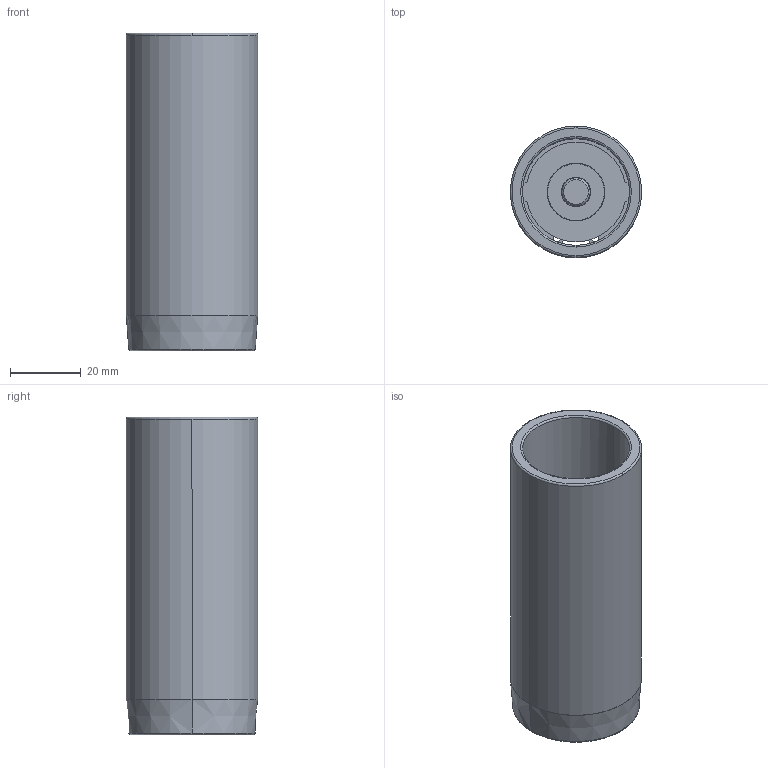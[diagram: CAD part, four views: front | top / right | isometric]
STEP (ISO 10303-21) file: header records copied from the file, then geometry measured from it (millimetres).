
FILE_DESCRIPTION((''),'2;1');
FILE_NAME('C12_030_090.stp','2009-01-28T09:46:16',(''),(''),'Mechanical Desktop 2009','Mechanical Desktop 2009',', , ');
FILE_SCHEMA(('CONFIG_CONTROL_DESIGN'));
Length unit declared in the file: millimetre
Products named in the file (2): Product; blmdl1
Assembly tree (1 placements, depth 2):
  Product
    blmdl1
Bounding box: 37.25 x 37.25 x 90 mm (x, y, z)
Volume: 35779.8 mm3; surface area: 24041.9 mm2
Topology: 5 solids, 5 shells, 79 faces, 200 edges, 134 vertices
Faces by surface type: cylinder 34, plane 29, torus 10, cone 6
Entity records: 2585 total; most frequent: DIRECTION 480, CARTESIAN_POINT 435, ORIENTED_EDGE 400, AXIS2_PLACEMENT_3D 203, EDGE_CURVE 200, VERTEX_POINT 134, CIRCLE 122, EDGE_LOOP 92
